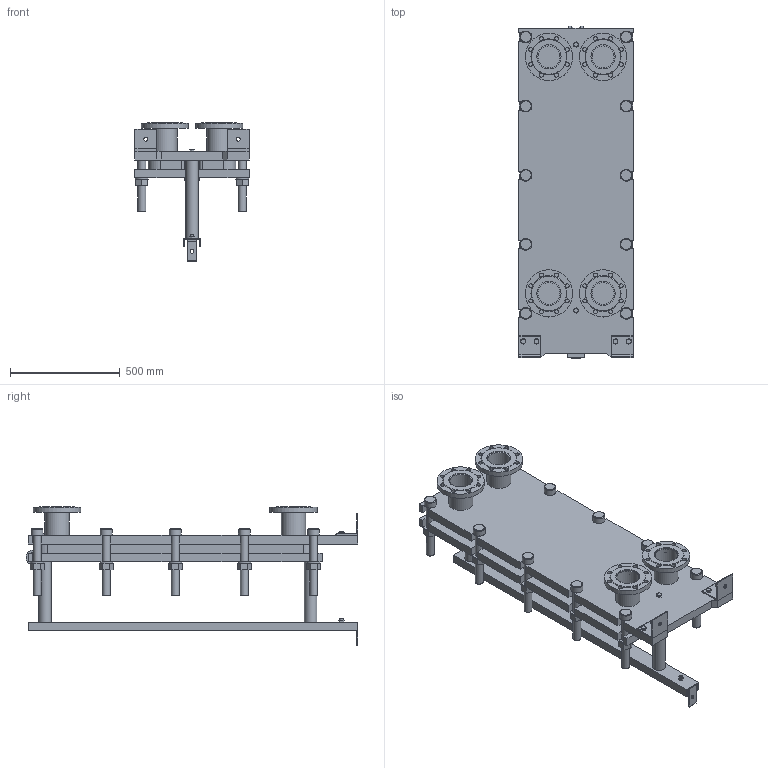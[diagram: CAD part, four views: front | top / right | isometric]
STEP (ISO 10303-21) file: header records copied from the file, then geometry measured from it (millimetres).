
FILE_DESCRIPTION(/* description */ (''),/* implementation_level */ '2;1');
FILE_NAME(/* name */ 'C:\Users\zhuro\Desktop\ENCO\TO\ЭН-04\ЭН-0,5-04-12-1.stp',/* time_stamp */ '2022-06-06T10:45:21+03:00',/* author */ ('zhuro'),/* organization */ (''),/* preprocessor_version */ 'ST-DEVELOPER v18.1',/* originating_system */ 'Autodesk Inventor 2022',/* authorisation */ '');
FILE_SCHEMA (('AUTOMOTIVE_DESIGN { 1 0 10303 214 3 1 1 }'));
Length unit declared in the file: millimetre
Products named in the file (1): ЭН-0,5-04-12-1
Bounding box: 520 x 1510 x 631 mm (x, y, z)
Volume: 87158569.8 mm3; surface area: 6420133.6 mm2
Topology: 45 solids, 45 shells, 668 faces, 1611 edges, 1048 vertices
Faces by surface type: plane 457, cylinder 166, cone 39, torus 6
Full cylindrical faces by diameter (mm): 8 x4, 10 x2, 16 x8, 18 x35, 36 x25, 40 x2, 42 x1, 45 x4, 54 x10, 57 x2, 60 x10, 68 x2, 100 x4, 110 x8, 215 x4
Entity records: 23607 total; most frequent: CARTESIAN_POINT 7348, DIRECTION 3371, ORIENTED_EDGE 3142, EDGE_CURVE 1571, AXIS2_PLACEMENT_3D 1199, VERTEX_POINT 1044, LINE 973, VECTOR 973
